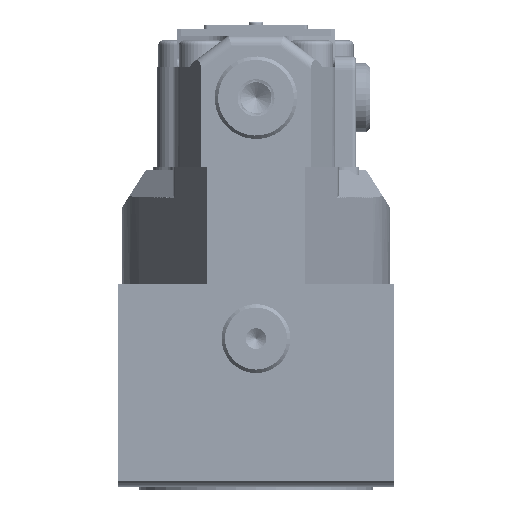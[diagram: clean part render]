
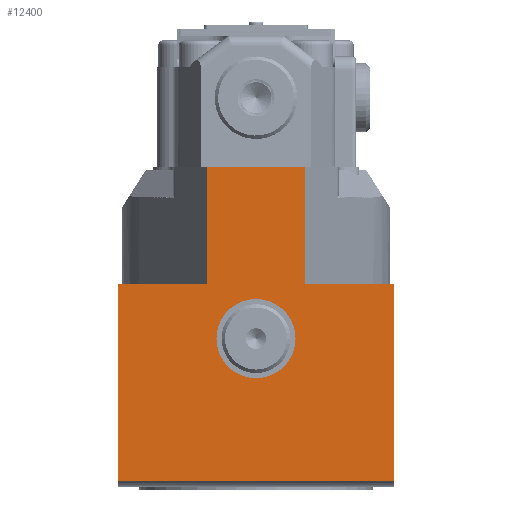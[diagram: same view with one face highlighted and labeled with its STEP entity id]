
A CAD part, left-side view. The second image highlights one B-rep face of the part: STEP entity #12400.
In plain terms, the highlighted planar face has unit normal (-1, 0, 0).
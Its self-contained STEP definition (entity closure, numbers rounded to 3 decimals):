
#1159=PLANE('',#16276);
#2490=LINE('',#95035,#3087);
#2513=LINE('',#95096,#3110);
#2514=LINE('',#95099,#3111);
#2515=LINE('',#95100,#3112);
#2516=LINE('',#95102,#3113);
#2517=LINE('',#95104,#3114);
#2518=LINE('',#95106,#3115);
#2519=LINE('',#95108,#3116);
#3087=VECTOR('',#19641,1.);
#3110=VECTOR('',#19686,1.);
#3111=VECTOR('',#19687,1.);
#3112=VECTOR('',#19688,1.);
#3113=VECTOR('',#19689,1.);
#3114=VECTOR('',#19690,1.);
#3115=VECTOR('',#19691,1.);
#3116=VECTOR('',#19692,1.);
#4473=EDGE_LOOP('',(#7680));
#4474=EDGE_LOOP('',(#7681,#7682,#7683,#7684,#7685,#7686,#7687,#7688));
#7680=ORIENTED_EDGE('',*,*,#9852,.F.);
#7681=ORIENTED_EDGE('',*,*,#9853,.F.);
#7682=ORIENTED_EDGE('',*,*,#9854,.T.);
#7683=ORIENTED_EDGE('',*,*,#9823,.F.);
#7684=ORIENTED_EDGE('',*,*,#9855,.T.);
#7685=ORIENTED_EDGE('',*,*,#9856,.F.);
#7686=ORIENTED_EDGE('',*,*,#9857,.F.);
#7687=ORIENTED_EDGE('',*,*,#9858,.T.);
#7688=ORIENTED_EDGE('',*,*,#9859,.F.);
#9823=EDGE_CURVE('',#14711,#14712,#2490,.T.);
#9852=EDGE_CURVE('',#14737,#14737,#10717,.T.);
#9853=EDGE_CURVE('',#14738,#14739,#2513,.T.);
#9854=EDGE_CURVE('',#14738,#14712,#2514,.T.);
#9855=EDGE_CURVE('',#14711,#14740,#2515,.T.);
#9856=EDGE_CURVE('',#14741,#14740,#2516,.T.);
#9857=EDGE_CURVE('',#14742,#14741,#2517,.T.);
#9858=EDGE_CURVE('',#14742,#14743,#2518,.T.);
#9859=EDGE_CURVE('',#14739,#14743,#2519,.T.);
#10717=CIRCLE('',#16275,11.5);
#12400=ADVANCED_FACE('',(#13459,#13460),#1159,.T.);
#13459=FACE_BOUND('',#4473,.T.);
#13460=FACE_BOUND('',#4474,.T.);
#14711=VERTEX_POINT('',#95036);
#14712=VERTEX_POINT('',#95037);
#14737=VERTEX_POINT('',#95095);
#14738=VERTEX_POINT('',#95097);
#14739=VERTEX_POINT('',#95098);
#14740=VERTEX_POINT('',#95101);
#14741=VERTEX_POINT('',#95103);
#14742=VERTEX_POINT('',#95105);
#14743=VERTEX_POINT('',#95107);
#16275=AXIS2_PLACEMENT_3D('',#95094,#19684,#19685);
#16276=AXIS2_PLACEMENT_3D('',#95109,#19693,#19694);
#19641=DIRECTION('',(0.,1.,0.));
#19684=DIRECTION('',(-1.,0.,0.));
#19685=DIRECTION('',(0.,0.,-1.));
#19686=DIRECTION('',(0.,-1.,0.));
#19687=DIRECTION('',(0.,0.,-1.));
#19688=DIRECTION('',(0.,0.,1.));
#19689=DIRECTION('',(0.,-1.,0.));
#19690=DIRECTION('',(0.,0.,-1.));
#19691=DIRECTION('',(0.,1.,0.));
#19692=DIRECTION('',(0.,0.,1.));
#19693=DIRECTION('',(-1.,0.,0.));
#19694=DIRECTION('',(0.,0.,-1.));
#95035=CARTESIAN_POINT('',(-745.26,136.121,-1.245));
#95036=CARTESIAN_POINT('',(-745.26,-96.932,-1.245));
#95037=CARTESIAN_POINT('',(-745.26,-16.932,-1.245));
#95094=CARTESIAN_POINT('',(-745.26,-56.932,40.));
#95095=CARTESIAN_POINT('',(-745.26,-56.932,28.5));
#95096=CARTESIAN_POINT('',(-745.26,-17.932,56.));
#95097=CARTESIAN_POINT('',(-745.26,-16.932,56.));
#95098=CARTESIAN_POINT('',(-745.26,-42.653,56.));
#95099=CARTESIAN_POINT('',(-745.26,-16.932,47.5));
#95100=CARTESIAN_POINT('',(-745.26,-96.932,47.5));
#95101=CARTESIAN_POINT('',(-745.26,-96.932,56.));
#95102=CARTESIAN_POINT('',(-745.26,-98.332,56.));
#95103=CARTESIAN_POINT('',(-745.26,-71.211,56.));
#95104=CARTESIAN_POINT('',(-745.26,-71.211,56.));
#95105=CARTESIAN_POINT('',(-745.26,-71.211,90.));
#95106=CARTESIAN_POINT('',(-745.26,-98.332,90.));
#95107=CARTESIAN_POINT('',(-745.26,-42.653,90.));
#95108=CARTESIAN_POINT('',(-745.26,-42.653,56.));
#95109=CARTESIAN_POINT('',(-745.26,-56.932,47.5));
